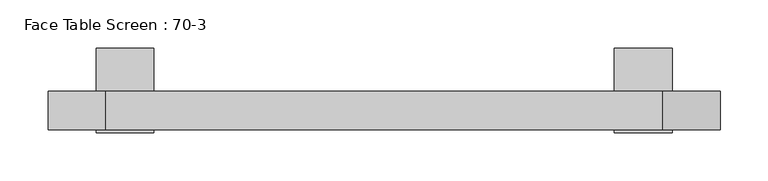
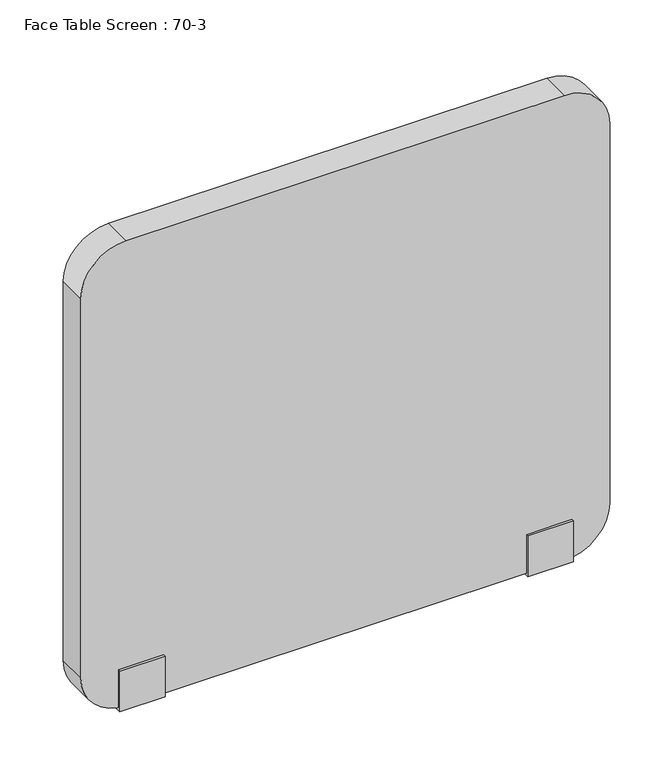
"""IFC4 building model written with IfcOpenShell, lengths in millimetres: furniture geometry, Face Table Screen : 70-3."""

from ifc_helpers import new_model, si_unit, point, frame, frame_2d, origin, place, context, project, spatial, polyline, circle_curve, trimmed, segment, composite_curve, outline, extrude, source, transform, mapped, element, save


def face_table_screen_70_3_a536ad73(model_context):
    return source(origin(), model_context, "Body", "SweptSolid", [
        extrude(outline(polyline([(-22.9999947, -256.0), (-22.9999997, -199.0433898), (-20.0, -199.0433898), (-20.0, -253.0), (20.0, -253.0), (20.0, -22.0), (65.0, -22.0), (65.0, -25.0433898), (23.0000062, -25.0433898), (22.9999947, -256.0), (-22.9999947, -256.0)])), frame((240.0, 0.0, 0.0), z_axis=(1.0, 0.0, 0.0), x_axis=(0.0, 1.0, 0.0)), (0.0, 0.0, 1.0), 60.0),
        extrude(outline(polyline([(-22.9999947, -256.0), (-22.9999997, -199.0433898), (-20.0, -199.0433898), (-20.0, -253.0), (20.0, -253.0), (20.0, -22.0), (65.0, -22.0), (65.0, -25.0433898), (23.0000062, -25.0433898), (22.9999947, -256.0), (-22.9999947, -256.0)])), frame((-300.0, 0.0, 0.0), z_axis=(1.0, 0.0, 0.0), x_axis=(0.0, 1.0, 0.0)), (0.0, 0.0, 1.0), 60.0),
        extrude(outline(composite_curve([segment(polyline([(397.0, 290.0), (397.0, -290.0)]), True, "CONTINUOUS"), segment(trimmed(circle_curve(frame_2d((337.0, -290.0)), 60.0), [point((397.0, -290.0))], [point((337.0, -350.0))], False, "CARTESIAN"), True, "CONTINUOUS"), segment(polyline([(337.0, -350.0), (-193.0, -350.0)]), True, "CONTINUOUS"), segment(trimmed(circle_curve(frame_2d((-193.0, -290.0)), 60.0), [point((-193.0, -350.0))], [point((-253.0, -290.0))], False, "CARTESIAN"), True, "CONTINUOUS"), segment(polyline([(-253.0, -290.0), (-253.0, 290.0)]), True, "CONTINUOUS"), segment(trimmed(circle_curve(frame_2d((-193.0, 290.0)), 60.0), [point((-253.0, 290.0))], [point((-193.0, 350.0))], False, "CARTESIAN"), True, "CONTINUOUS"), segment(polyline([(-193.0, 350.0), (337.0, 350.0)]), True, "CONTINUOUS"), segment(trimmed(circle_curve(frame_2d((337.0, 290.0)), 60.0), [point((337.0, 350.0))], [point((397.0, 290.0))], False, "CARTESIAN"), True, "CONTINUOUS")], self_intersect=False)), frame((0.0, -20.0, 0.0), z_axis=(0.0, 1.0, 0.0), x_axis=(0.0, 0.0, 1.0)), (0.0, 0.0, 1.0), 40.0),
    ])


if __name__ == "__main__":
    model = new_model("IFC4")
    model_context = context("Model", 3, world=origin())
    ifc_project = project(units=[si_unit("LENGTHUNIT", "METRE", prefix="MILLI")], contexts=[model_context])
    site = spatial("IfcSite", under=ifc_project)
    building = spatial("IfcBuilding", under=site)
    placement = place(None, origin())
    face_table_screen_70_3_shape = face_table_screen_70_3_a536ad73(model_context)
    element("IfcFurniture", 1, ObjectType="Face Table Screen : 70-3", at=placement, inside=building, context=model_context, shape_type="MappedRepresentation", body=[
        mapped(face_table_screen_70_3_shape, transform((0.0, 0.0, 0.0), x_axis=(1.0, 0.0, 0.0), y_axis=(0.0, 1.0, 0.0), z_axis=(0.0, 0.0, 1.0))),
    ])
    save(model, "model.ifc")
